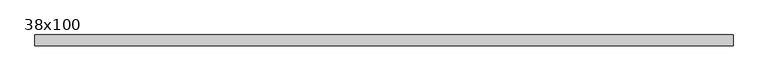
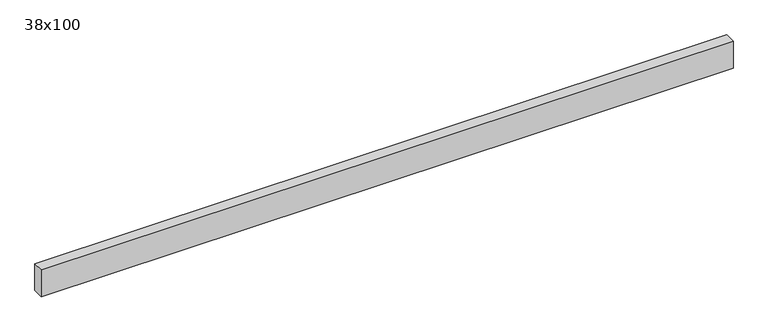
"""IFC4 building model written with IfcOpenShell, lengths in millimetres: beam geometry, Poutre - Bois de construction de dimensions courantes : 38x100."""

from ifc_helpers import new_model, si_unit, frame, origin, place, context, project, spatial, polyline, outline, extrude, source, transform, mapped, element, save


def beam_38x100_d01be4a4(model_context):
    return source(origin(), model_context, "Body", "SweptSolid", [
        extrude(outline(polyline([(1216.5, 19.05), (1216.5, -19.05), (-1216.5, -19.05), (-1216.5, 19.05), (1216.5, 19.05)])), frame((0.0, 0.0, -50.0), z_axis=(0.0, 0.0, 1.0), x_axis=(1.0, 0.0, 0.0)), (0.0, 0.0, 1.0), 100.0),
    ])


if __name__ == "__main__":
    model = new_model("IFC4")
    model_context = context("Model", 3, world=origin())
    ifc_project = project(units=[si_unit("LENGTHUNIT", "METRE", prefix="MILLI")], contexts=[model_context])
    site = spatial("IfcSite", under=ifc_project)
    building = spatial("IfcBuilding", under=site)
    placement = place(None, origin())
    beam_38x100_shape = beam_38x100_d01be4a4(model_context)
    element("IfcBeam", 1, ObjectType="Poutre - Bois de construction de dimensions courantes : 38x100", at=placement, inside=building, context=model_context, shape_type="MappedRepresentation", body=[
        mapped(beam_38x100_shape, transform((0.0, 0.0, 0.0), x_axis=(1.0, 0.0, 0.0), y_axis=(0.0, 1.0, 0.0), z_axis=(0.0, 0.0, 1.0))),
    ])
    save(model, "model.ifc")
